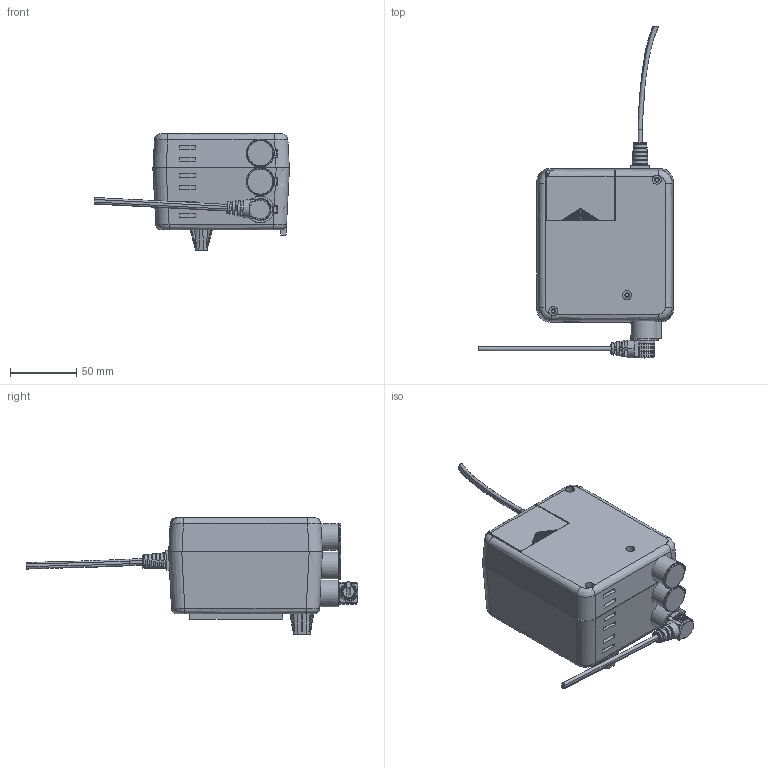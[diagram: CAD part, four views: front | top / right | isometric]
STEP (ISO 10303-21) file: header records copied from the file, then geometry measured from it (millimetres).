
FILE_DESCRIPTION((''),'2;1');
FILE_NAME('1','2014-06-04T',('tony'),(''),'PRO/ENGINEER BY PARAMETRIC TECHNOLOGY CORPORATION, 2008090','PRO/ENGINEER BY PARAMETRIC TECHNOLOGY CORPORATION, 2008090','');
FILE_SCHEMA(('CONFIG_CONTROL_DESIGN'));
Products named in the file (1): 1
Bounding box: 146.96 x 250.21 x 87.9 mm (x, y, z)
Surface area: 180528.2 mm2 (no closed solid volume)
Topology: 0 solids, 0 shells, 1297 faces, 7436 edges, 7408 vertices
Faces by surface type: bspline 1265, torus 30, sphere 2
Entity records: 105902 total; most frequent: CARTESIAN_POINT 38357, DIRECTION 10549, TRIMMED_CURVE 9853, VECTOR 9221, LINE 9221, DEFINITIONAL_REPRESENTATION 7382, PCURVE 7382, COMPOSITE_CURVE_SEGMENT 7382
